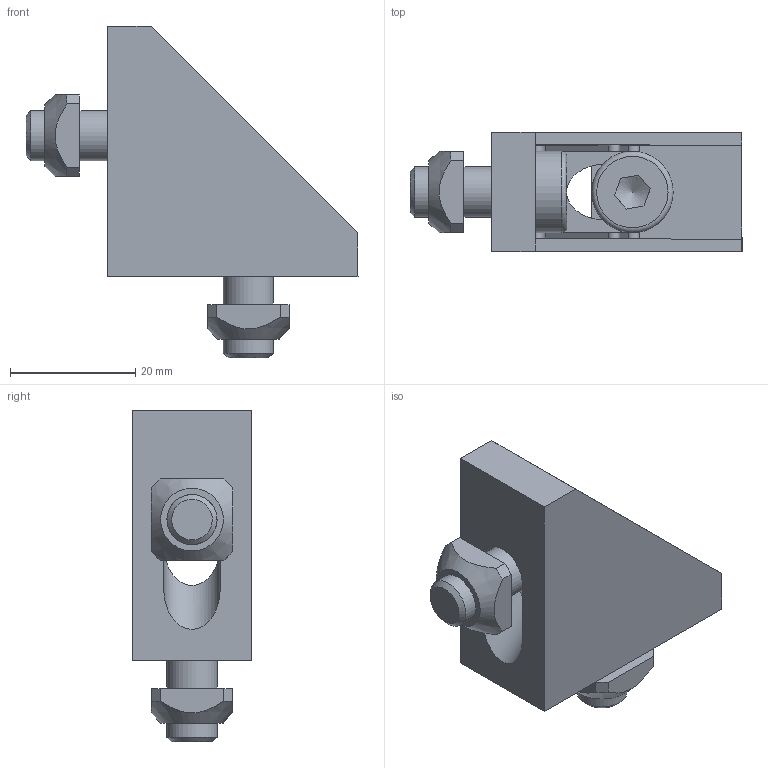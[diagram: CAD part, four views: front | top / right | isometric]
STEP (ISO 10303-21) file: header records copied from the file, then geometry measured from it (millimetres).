
FILE_DESCRIPTION((''),'2;1');
FILE_NAME('C:\Andys Backup Data\WEBSITE\DREAMWEAVER\MiniTec\Products\Profile_Fasteners\CAD\Step\21.2078 Angle 19 GD-Z.stp','2013-06-21T14:38:57',('Admin'),(''),'Autodesk Inventor 2012','Autodesk Inventor 2012','');
FILE_SCHEMA(('AUTOMOTIVE_DESIGN { 1 0 10303 214 1 1 1 1 }'));
Products named in the file (4): 21.2078 Angle 19 GD-Z; 21.2078_1 Angle 19; 21.1202  M8 x 20; 21.1351 M8 SQUARE NUT
Assembly tree (5 placements, depth 2):
  21.2078 Angle 19 GD-Z
    21.2078_1 Angle 19
    21.1202  M8 x 20  x2
    21.1351 M8 SQUARE NUT  x2
Bounding box: 53 x 19 x 53 mm (x, y, z)
Volume: 14182.4 mm3; surface area: 9522.2 mm2
Topology: 5 solids, 5 shells, 92 faces, 230 edges, 150 vertices
Faces by surface type: plane 64, cylinder 20, cone 6, torus 2
Full cylindrical faces by diameter (mm): 8 x4, 13 x2
Entity records: 2077 total; most frequent: CARTESIAN_POINT 373, DIRECTION 334, ORIENTED_EDGE 322, EDGE_CURVE 161, AXIS2_PLACEMENT_3D 112, VECTOR 110, LINE 110, VERTEX_POINT 109
